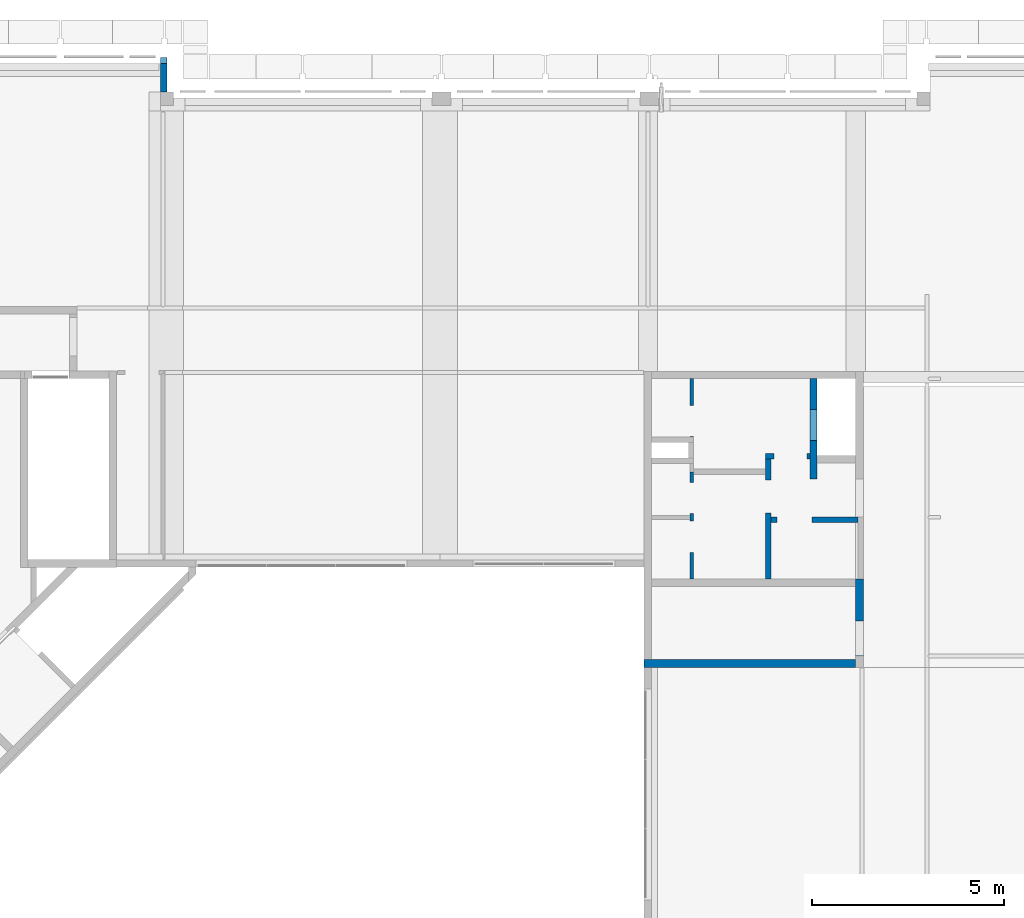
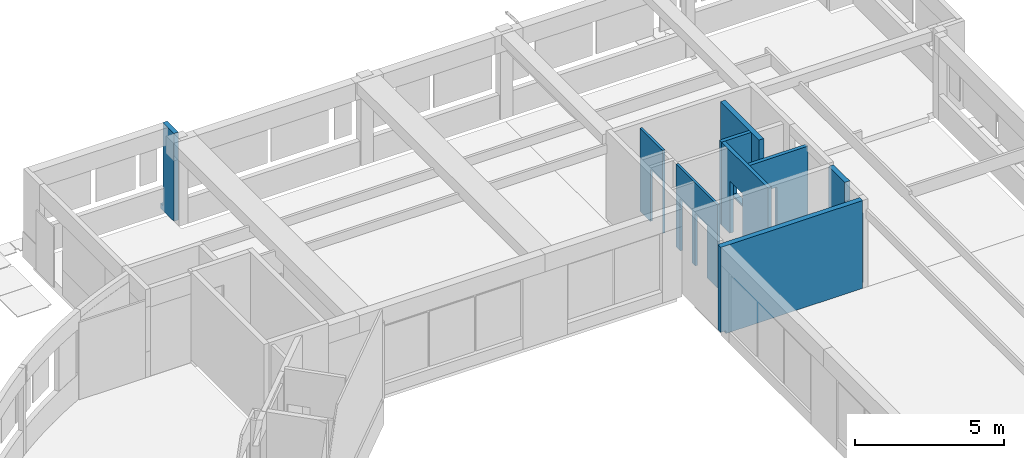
# One storey, part 24 of 26: 10 walls.
"""IFC4X3_ADD2 building model written with IfcOpenShell, lengths in millimetres."""

from ifc_helpers import new_model, si_unit, direction, frame, origin_with_axes, place, context, subcontext, project, spatial, polygons, element, save


model = new_model("IFC4X3_ADD2")

# Units and contexts
model_context = context("Model", 3, precision=1e-05, world=origin_with_axes(), true_north=direction((0.0, 1.0)))
body_context = subcontext(model_context, "Body", "Model", "MODEL_VIEW")
ifc_project = project(units=[si_unit("LENGTHUNIT", "METRE", prefix="MILLI"), si_unit("AREAUNIT", "SQUARE_METRE"), si_unit("VOLUMEUNIT", "CUBIC_METRE"), si_unit("PLANEANGLEUNIT", "RADIAN"), si_unit("TIMEUNIT", "SECOND"), si_unit("MASSUNIT", "GRAM")], contexts=[model_context])

# Site, building, storey
site_placement = place(None, origin_with_axes())
site = spatial("IfcSite", under=ifc_project, at=site_placement, Name="Site", CompositionType="ELEMENT")
building_placement = place(site_placement, origin_with_axes())
building = spatial("IfcBuilding", under=site, at=building_placement, Name="IFC Building Story")
storey_placement = place(building_placement, frame((0.0, 0.0, 7200.0), z_axis=(0.0, 0.0, 1.0), x_axis=(1.0, 0.0, 0.0)))
storey = spatial("IfcBuildingStorey", under=building, at=storey_placement, Name="020", Elevation=7200.0)

# Walls
wall_1_placement = place(storey_placement, frame((0.0, 0.0, -7200.0), z_axis=(0.0, 0.0, 1.0), x_axis=(1.0, 0.0, 0.0)))
element("IfcWall", 1, at=wall_1_placement, inside=storey, Name="Basic Wall:BB_XX_Wand uit beton, 200 mm", ObjectType="Basic Wall:BB_XX_Wand uit beton, 200 mm", PredefinedType="SOLIDWALL", context=body_context, shape_type="Tessellation", body=[
    polygons([(-7200.0, 36200.0, 6999.999999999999), (-12500.00406588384, 36200.0, 6999.999999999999), (-12500.00406588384, 36200.0, 7120.0), (-12700.00406588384, 36200.0, 7120.0), (-12700.00406588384, 36200.0, 10600.0), (-7200.0, 36200.0, 10600.0), (-7200.0, 36000.0, 6999.999999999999), (-7200.0, 36000.0, 10600.0), (-12700.00406588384, 36000.00000000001, 10600.0), (-12700.00406588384, 36000.00000000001, 7120.0), (-12500.00406588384, 36000.00000000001, 7120.0), (-12500.00406588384, 36000.00000000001, 6999.999999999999)], [[[3, 4, 5]], [[5, 6, 1]], [[5, 1, 3]], [[1, 2, 3]], [[11, 12, 7]], [[11, 7, 8]], [[11, 8, 9]], [[9, 10, 11]], [[2, 1, 7, 12]], [[6, 5, 9, 8]], [[1, 6, 8, 7]], [[10, 4, 3, 11]], [[3, 2, 12, 11]], [[5, 4, 10, 9]]]),
])
wall_2_placement = place(storey_placement, frame((0.0, 0.0, -7200.0), z_axis=(0.0, 0.0, 1.0), x_axis=(1.0, 0.0, 0.0)))
element("IfcWall", 2, at=wall_2_placement, inside=storey, Name="Basic Wall:BB_XX_Wand uit beton, 200 mm", ObjectType="Basic Wall:BB_XX_Wand uit beton, 200 mm", PredefinedType="SOLIDWALL", context=body_context, shape_type="Tessellation", body=[
    polygons([(-7000.0, 37210.0, 6999.999999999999), (-6999.999999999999, 38099.99999999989, 6999.999999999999), (-6999.999999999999, 38099.99999999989, 7120.0), (-6999.999999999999, 38299.99999999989, 7120.0), (-6999.999999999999, 38299.99999999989, 10600.0), (-7000.0, 37210.0, 10600.0), (-7200.0, 37210.0, 6999.999999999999), (-7200.0, 37210.0, 10600.0), (-7200.0, 38299.99999999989, 10600.0), (-7200.0, 38299.99999999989, 7120.0), (-7200.0, 38099.99999999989, 7120.0), (-7200.0, 38099.99999999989, 6999.999999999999)], [[[3, 4, 5]], [[5, 6, 1]], [[5, 1, 3]], [[1, 2, 3]], [[11, 12, 7]], [[11, 7, 8]], [[11, 8, 9]], [[9, 10, 11]], [[2, 1, 7, 12]], [[6, 5, 9, 8]], [[1, 6, 8, 7]], [[10, 4, 3, 11]], [[3, 2, 12, 11]], [[5, 4, 10, 9]]]),
])
wall_3_placement = place(storey_placement, frame((0.0, 0.0, -7200.0), z_axis=(0.0, 0.0, 1.0), x_axis=(1.0, 0.0, 0.0)))
element("IfcWall", 3, at=wall_3_placement, inside=storey, Name="Basic Wall:BB_XX_Wand uit beton, 170 mm", ObjectType="Basic Wall:BB_XX_Wand uit beton, 170 mm", PredefinedType="SOLIDWALL", context=body_context, shape_type="Tessellation", body=[
    polygons([(-25260.0, 51845.0, 6999.999999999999), (-25260.0, 50945.00000000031, 6999.999999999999), (-25260.0, 50945.00000000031, 10600.0), (-25260.0, 51694.99999990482, 10600.0), (-25260.0, 51694.99999990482, 7200.0), (-25260.0, 51845.0, 7200.0), (-25090.0, 51845.0, 6999.999999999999), (-25090.0, 51845.0, 7200.0), (-25090.0, 51694.99999990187, 7200.0), (-25090.0, 51694.99999990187, 10600.0), (-25090.0, 50945.00000000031, 10600.0), (-25090.0, 50945.00000000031, 6999.999999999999)], [[[5, 6, 1]], [[5, 1, 2]], [[2, 3, 4]], [[2, 4, 5]], [[9, 10, 11]], [[9, 11, 12]], [[12, 7, 9]], [[7, 8, 9]], [[2, 1, 7, 12]], [[4, 3, 11, 10]], [[5, 9, 8, 6]], [[1, 6, 8, 7]], [[4, 10, 9, 5]], [[3, 2, 12, 11]]]),
])
wall_4_placement = place(storey_placement, frame((0.0, 0.0, -7200.0), z_axis=(0.0, 0.0, 1.0), x_axis=(1.0, 0.0, 0.0)))
element("IfcWall", 4, at=wall_4_placement, inside=storey, Name="Basic Wall:BB_XX_Wand uit metselwerk, 200 mm", ObjectType="Basic Wall:BB_XX_Wand uit metselwerk, 200 mm", PredefinedType="SOLIDWALL", context=body_context, shape_type="Tessellation", body=[
    polygons([(-7200.0, 36299.99999999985, 7000.0), (-7200.0, 36299.99999999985, 9830.0), (-7200.0, 37210.0, 9830.0), (-7200.0, 37210.0, 9750.000000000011), (-7200.0, 36304.99999999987, 9750.000000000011), (-7200.0, 36304.99999999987, 7000.0), (-7000.0, 36299.99999999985, 9830.0), (-7000.0, 36299.99999999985, 7000.0), (-7000.0, 36304.99999999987, 7000.0), (-7000.0, 36304.99999999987, 9750.000000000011), (-7000.0, 37210.0, 9750.000000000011), (-7000.0, 37210.0, 9830.0)], [[[5, 6, 1]], [[1, 2, 5]], [[2, 3, 4]], [[2, 4, 5]], [[10, 11, 12]], [[10, 12, 7]], [[10, 7, 8]], [[8, 9, 10]], [[8, 1, 6, 9]], [[2, 1, 8, 7]], [[3, 2, 7, 12]], [[3, 12, 11, 4]], [[10, 5, 4, 11]], [[5, 10, 9, 6]]]),
])
wall_5_placement = place(storey_placement, frame((0.0, 0.0, -7200.0), z_axis=(0.0, 0.0, 1.0), x_axis=(1.0, 0.0, 0.0)))
element("IfcWall", 5, at=wall_5_placement, inside=storey, Name="Basic Wall:BB_XX_Wand uit metselwerk, 90 mm", ObjectType="Basic Wall:BB_XX_Wand uit metselwerk, 90 mm", PredefinedType="SOLIDWALL", context=body_context, shape_type="Tessellation", body=[
    polygons([(-11410.004065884, 41079.99999999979, 7120.0), (-11410.004065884, 41079.99999999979, 10520.0), (-11410.004065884, 38300.0, 10520.0), (-11410.004065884, 38300.0, 7120.0), (-11410.004065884, 38991.9999999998, 7120.0), (-11410.004065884, 38991.9999999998, 9260.0), (-11410.004065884, 39797.9999999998, 9260.0), (-11410.004065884, 39797.99999999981, 7120.0), (-11410.004065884, 40001.99999999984, 7120.0), (-11410.004065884, 40001.99999999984, 9260.0), (-11410.004065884, 40807.99999999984, 9260.0), (-11410.004065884, 40807.99999999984, 7120.0), (-11500.004065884, 41079.99999999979, 10520.0), (-11500.004065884, 41079.99999999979, 7120.0), (-11500.004065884, 40807.99999999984, 7120.0), (-11500.004065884, 40807.99999999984, 9260.0), (-11500.004065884, 40001.99999999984, 9260.0), (-11500.004065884, 40001.99999999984, 7120.0), (-11500.004065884, 39797.99999999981, 7120.0), (-11500.004065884, 39797.9999999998, 9260.0), (-11500.004065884, 38991.9999999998, 9260.000000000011), (-11500.004065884, 38991.9999999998, 7120.0), (-11500.004065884, 38300.0, 7120.0), (-11500.004065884, 38300.0, 10520.0)], [[[11, 12, 1]], [[11, 1, 2]], [[2, 10, 11]], [[2, 7, 10]], [[7, 8, 9]], [[7, 9, 10]], [[2, 3, 6]], [[2, 6, 7]], [[3, 4, 5]], [[3, 5, 6]], [[21, 22, 23]], [[21, 23, 24]], [[24, 20, 21]], [[24, 17, 20]], [[17, 18, 19]], [[17, 19, 20]], [[24, 13, 17]], [[13, 16, 17]], [[13, 14, 15]], [[13, 15, 16]], [[4, 23, 22, 5]], [[2, 1, 14, 13]], [[3, 2, 13, 24]], [[4, 3, 24, 23]], [[7, 20, 19, 8]], [[21, 6, 5, 22]], [[20, 7, 6, 21]], [[17, 10, 9, 18]], [[11, 16, 15, 12]], [[10, 17, 16, 11]], [[8, 19, 18, 9]], [[14, 1, 12, 15]]]),
])
wall_6_placement = place(storey_placement, frame((0.0, 0.0, -7200.0), z_axis=(0.0, 0.0, 1.0), x_axis=(1.0, 0.0, 0.0)))
element("IfcWall", 6, at=wall_6_placement, inside=storey, Name="Basic Wall:BB_XX_Wand uit metselwerk, 90 mm", ObjectType="Basic Wall:BB_XX_Wand uit metselwerk, 90 mm", PredefinedType="SOLIDWALL", context=body_context, shape_type="Tessellation", body=[
    polygons([(-11410.004065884, 43500.00000000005, 7120.0), (-11410.004065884, 43500.00000000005, 10520.0), (-11410.004065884, 41990.0, 10520.0), (-11410.004065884, 41990.0, 7120.0), (-11410.004065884, 42002.00000000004, 7120.0), (-11410.004065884, 42002.00000000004, 9260.0), (-11410.004065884, 42808.00000000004, 9260.0), (-11410.004065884, 42808.00000000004, 7120.0), (-11500.004065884, 43500.00000000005, 10520.0), (-11500.004065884, 43500.00000000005, 7120.0), (-11500.004065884, 42808.00000000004, 7120.0), (-11500.004065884, 42808.00000000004, 9260.0), (-11500.004065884, 42002.00000000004, 9260.0), (-11500.004065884, 42002.00000000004, 7120.0), (-11500.004065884, 41990.0, 7120.0), (-11500.004065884, 41990.0, 10520.0)], [[[7, 8, 1]], [[7, 1, 2]], [[2, 3, 6]], [[2, 6, 7]], [[6, 3, 4]], [[4, 5, 6]], [[13, 14, 15]], [[15, 16, 13]], [[16, 9, 12]], [[16, 12, 13]], [[9, 10, 11]], [[9, 11, 12]], [[4, 15, 14, 5]], [[2, 1, 10, 9]], [[3, 2, 9, 16]], [[4, 3, 16, 15]], [[13, 6, 5, 14]], [[7, 12, 11, 8]], [[6, 13, 12, 7]], [[10, 1, 8, 11]]]),
])
wall_7_placement = place(storey_placement, frame((0.0, 0.0, -7200.0), z_axis=(0.0, 0.0, 1.0), x_axis=(1.0, 0.0, 0.0)))
element("IfcWall", 7, at=wall_7_placement, inside=storey, Name="Basic Wall:BB_XX_Wand uit metselwerk, 140 mm", ObjectType="Basic Wall:BB_XX_Wand uit metselwerk, 140 mm", PredefinedType="SOLIDWALL", context=body_context, shape_type="Tessellation", body=[
    polygons([(-9540.0, 41560.0, 10520.0), (-8389.999999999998, 41560.0, 10520.0), (-8389.999999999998, 41560.0, 7120.0), (-8465.000000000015, 41560.0, 7120.0), (-8465.000000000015, 41560.0, 9260.0), (-9325.000000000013, 41560.0, 9260.0), (-9325.000000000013, 41560.0, 7120.0), (-9540.0, 41560.0, 7120.0), (-8389.999999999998, 41420.0, 10520.0), (-9400.0, 41420.0, 10520.0), (-9540.0, 41420.0, 10520.0), (-9540.0, 41420.0, 7120.0), (-9400.0, 41420.0, 7120.0), (-9325.000000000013, 41420.0, 7120.0), (-9325.000000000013, 41420.0, 9260.0), (-8465.000000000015, 41420.0, 9260.0), (-8465.000000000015, 41420.0, 7120.0), (-8389.999999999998, 41420.0, 7120.0)], [[[6, 7, 8]], [[6, 8, 1]], [[1, 2, 5]], [[1, 5, 6]], [[5, 2, 3]], [[3, 4, 5]], [[10, 11, 12]], [[10, 12, 13]], [[16, 17, 18]], [[18, 9, 16]], [[9, 10, 15]], [[9, 15, 16]], [[15, 10, 13]], [[13, 14, 15]], [[3, 18, 17, 4]], [[10, 9, 2]], [[10, 2, 1]], [[1, 11, 10]], [[3, 2, 9, 18]], [[1, 8, 12, 11]], [[6, 15, 14, 7]], [[16, 5, 4, 17]], [[15, 6, 5, 16]], [[13, 12, 8]], [[13, 8, 7]], [[7, 14, 13]]]),
])
wall_8_placement = place(storey_placement, frame((0.0, 0.0, -7200.0), z_axis=(0.0, 0.0, 1.0), x_axis=(1.0, 0.0, 0.0)))
element("IfcWall", 8, at=wall_8_placement, inside=storey, Name="Basic Wall:BB_XX_Wand uit metselwerk, 140 mm", ObjectType="Basic Wall:BB_XX_Wand uit metselwerk, 140 mm", PredefinedType="SOLIDWALL", context=body_context, shape_type="Tessellation", body=[
    polygons([(-9540.0, 38300.0000000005, 7120.0), (-9540.0, 38300.0000000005, 10520.0), (-9540.0, 41420.0, 10520.0), (-9540.0, 41420.0, 7120.0), (-9540.0, 40870.00000000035, 7120.0), (-9540.0, 40870.00000000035, 9260.0), (-9540.0, 40010.00000000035, 9260.0), (-9540.0, 40010.00000000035, 7120.0), (-9400.0, 38300.0000000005, 10520.0), (-9400.0, 38300.0000000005, 7120.0), (-9400.0, 40010.00000000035, 7120.0), (-9400.0, 40010.00000000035, 9260.0), (-9400.0, 40870.00000000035, 9260.0), (-9400.0, 40870.00000000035, 7120.0), (-9400.000000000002, 41420.0, 7120.0), (-9400.000000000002, 41420.0, 10520.0)], [[[7, 8, 1]], [[7, 1, 2]], [[2, 3, 7]], [[3, 6, 7]], [[3, 4, 5]], [[3, 5, 6]], [[13, 14, 15]], [[13, 15, 16]], [[16, 12, 13]], [[12, 16, 9]], [[9, 10, 11]], [[9, 11, 12]], [[4, 15, 14, 5]], [[2, 1, 10, 9]], [[3, 2, 9, 16]], [[4, 3, 16, 15]], [[7, 12, 11, 8]], [[13, 6, 5, 14]], [[12, 7, 6, 13]], [[10, 1, 8, 11]]]),
])
wall_9_placement = place(storey_placement, frame((0.0, 0.0, -7200.0), z_axis=(0.0, 0.0, 1.0), x_axis=(1.0, 0.0, 0.0)))
element("IfcWall", 9, at=wall_9_placement, inside=storey, Name="Basic Wall:BB_XX_Wand uit metselwerk, 140 mm", ObjectType="Basic Wall:BB_XX_Wand uit metselwerk, 140 mm", PredefinedType="SOLIDWALL", context=body_context, shape_type="Tessellation", body=[
    polygons([(-7140.00000000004, 39770.0, 7120.0), (-7140.00000000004, 39770.0, 10520.0), (-9400.000000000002, 39770.0, 10520.0), (-9400.000000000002, 39770.0, 7120.0), (-9250.073181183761, 39770.0, 7120.0), (-9250.073181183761, 39770.0, 9260.0), (-8340.07318118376, 39770.0, 9260.0), (-8340.07318118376, 39770.0, 7120.0), (-7140.00000000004, 39910.0, 10520.0), (-7140.00000000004, 39910.0, 7120.0), (-8340.07318118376, 39910.0, 7120.0), (-8340.07318118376, 39910.0, 9260.0), (-9250.073181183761, 39910.0, 9260.0), (-9250.073181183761, 39910.0, 7120.0), (-9400.000000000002, 39910.0, 7120.0), (-9400.000000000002, 39910.0, 10520.0)], [[[7, 8, 1]], [[7, 1, 2]], [[2, 3, 7]], [[3, 6, 7]], [[3, 4, 5]], [[3, 5, 6]], [[13, 14, 15]], [[13, 15, 16]], [[16, 12, 13]], [[12, 16, 9]], [[9, 10, 11]], [[9, 11, 12]], [[4, 15, 14, 5]], [[2, 1, 10, 9]], [[3, 2, 9, 16]], [[4, 3, 16, 15]], [[7, 12, 11, 8]], [[13, 6, 5, 14]], [[12, 7, 6, 13]], [[10, 1, 8, 11]]]),
])
wall_10_placement = place(storey_placement, frame((0.0, 0.0, -7200.0), z_axis=(0.0, 0.0, 1.0), x_axis=(1.0, 0.0, 0.0)))
element("IfcWall", 10, at=wall_10_placement, inside=storey, Name="Basic Wall:BB_XX_Wand uit metselwerk, 190 mm", ObjectType="Basic Wall:BB_XX_Wand uit metselwerk, 190 mm", PredefinedType="SOLIDWALL", context=body_context, shape_type="Tessellation", body=[
    polygons([(-8390.0, 43500.0, 7120.0), (-8390.0, 40900.00000000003, 7120.0), (-8390.0, 40900.00000000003, 10520.0), (-8390.0, 43500.0, 10520.0), (-8389.999999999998, 41889.9999999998, 8745.0), (-8389.999999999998, 41889.9999999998, 7200.000000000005), (-8390.0, 42699.9999999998, 7200.000000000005), (-8390.0, 42699.9999999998, 8745.0), (-8200.0, 40900.00000000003, 7120.0), (-8200.0, 43500.0, 7120.0), (-8200.0, 43500.0, 10520.0), (-8200.0, 40900.00000000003, 10520.0), (-8199.999999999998, 41889.9999999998, 7200.000000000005), (-8199.999999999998, 41889.9999999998, 8745.0), (-8200.0, 42699.9999999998, 8745.0), (-8200.0, 42699.9999999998, 7200.000000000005)], [[[8, 5, 3]], [[8, 3, 4]], [[4, 1, 8]], [[1, 7, 8]], [[1, 6, 7]], [[1, 2, 6]], [[2, 3, 5]], [[2, 5, 6]], [[16, 13, 9]], [[9, 10, 16]], [[10, 15, 16]], [[15, 10, 11]], [[11, 12, 14]], [[11, 14, 15]], [[12, 9, 13]], [[12, 13, 14]], [[2, 1, 10, 9]], [[3, 2, 9, 12]], [[4, 3, 12, 11]], [[1, 4, 11, 10]], [[5, 14, 13, 6]], [[6, 13, 16, 7]], [[7, 16, 15, 8]], [[14, 5, 8, 15]]]),
])

save(model, "model.ifc")
